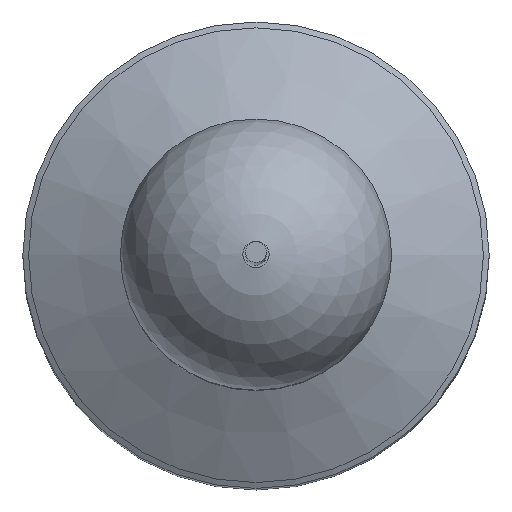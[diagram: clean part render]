
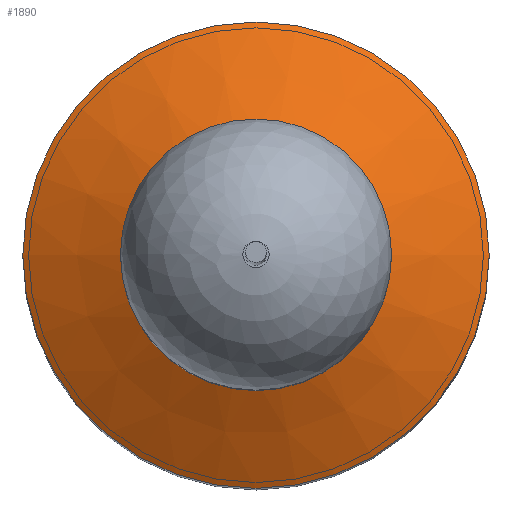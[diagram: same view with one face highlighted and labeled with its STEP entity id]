
A CAD part, top view. The second image highlights one B-rep face of the part: STEP entity #1890.
In plain terms, the highlighted conical face has half-angle 61.883 degrees and reference radius 39.045 mm.
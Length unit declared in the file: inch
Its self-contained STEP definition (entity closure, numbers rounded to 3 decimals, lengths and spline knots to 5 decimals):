
#30=CONICAL_SURFACE('',#2102,1.53722,1.08);
#270=LINE('',#3331,#447);
#447=VECTOR('',#2625,1.53722);
#607=FACE_OUTER_BOUND('',#713,.T.);
#713=EDGE_LOOP('',(#1745,#1746,#1747,#1748));
#772=CIRCLE('',#2101,1.07444);
#773=CIRCLE('',#2103,2.);
#964=VERTEX_POINT('',#3325);
#965=VERTEX_POINT('',#3329);
#1225=EDGE_CURVE('',#964,#964,#772,.T.);
#1227=EDGE_CURVE('',#965,#965,#773,.T.);
#1228=EDGE_CURVE('',#965,#964,#270,.T.);
#1745=ORIENTED_EDGE('',*,*,#1227,.F.);
#1746=ORIENTED_EDGE('',*,*,#1228,.T.);
#1747=ORIENTED_EDGE('',*,*,#1225,.T.);
#1748=ORIENTED_EDGE('',*,*,#1228,.F.);
#1890=ADVANCED_FACE('',(#607),#30,.T.);
#2101=AXIS2_PLACEMENT_3D('',#3326,#2618,#2619);
#2102=AXIS2_PLACEMENT_3D('',#3328,#2621,#2622);
#2103=AXIS2_PLACEMENT_3D('',#3330,#2623,#2624);
#2618=DIRECTION('center_axis',(0.,0.,-1.));
#2619=DIRECTION('ref_axis',(1.,0.,0.));
#2621=DIRECTION('center_axis',(0.,0.,-1.));
#2622=DIRECTION('ref_axis',(-1.,0.,0.));
#2623=DIRECTION('center_axis',(0.,0.,-1.));
#2624=DIRECTION('ref_axis',(1.,0.,0.));
#2625=DIRECTION('',(-0.882,0.,0.471));
#3325=CARTESIAN_POINT('',(1.07444,0.,4.79427));
#3326=CARTESIAN_POINT('Origin',(0.,0.,4.79427));
#3328=CARTESIAN_POINT('Origin',(0.,0.,4.54699));
#3329=CARTESIAN_POINT('',(2.,0.,4.29972));
#3330=CARTESIAN_POINT('Origin',(0.,0.,4.29972));
#3331=CARTESIAN_POINT('',(1.53722,0.,4.54699));
